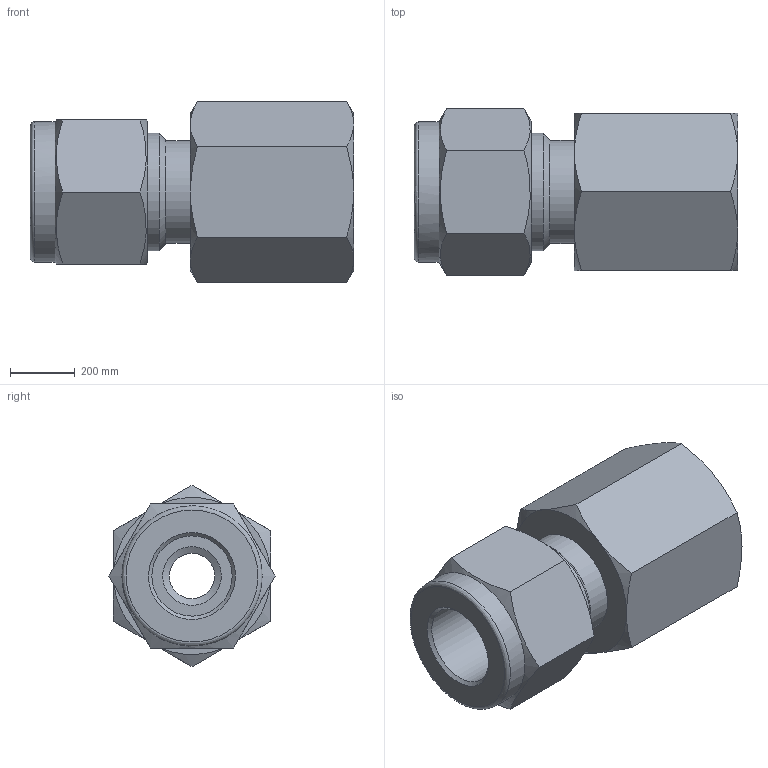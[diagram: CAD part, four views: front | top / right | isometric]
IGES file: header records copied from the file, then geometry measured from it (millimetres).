
Global section: file name: SGC-6-4G; native system: Autodesk Inventor 2016; preprocessor: unknown; author: DESIGNPC2; date: 20151219.143528; units: millimetre
Bounding box: 995.79 x 512.16 x 558.72 mm (x, y, z)
Volume: 125323836.8 mm3; surface area: 2741969 mm2
Topology: 1 solids, 1 shells, 45 faces, 113 edges, 75 vertices
Faces by surface type: bspline 45
